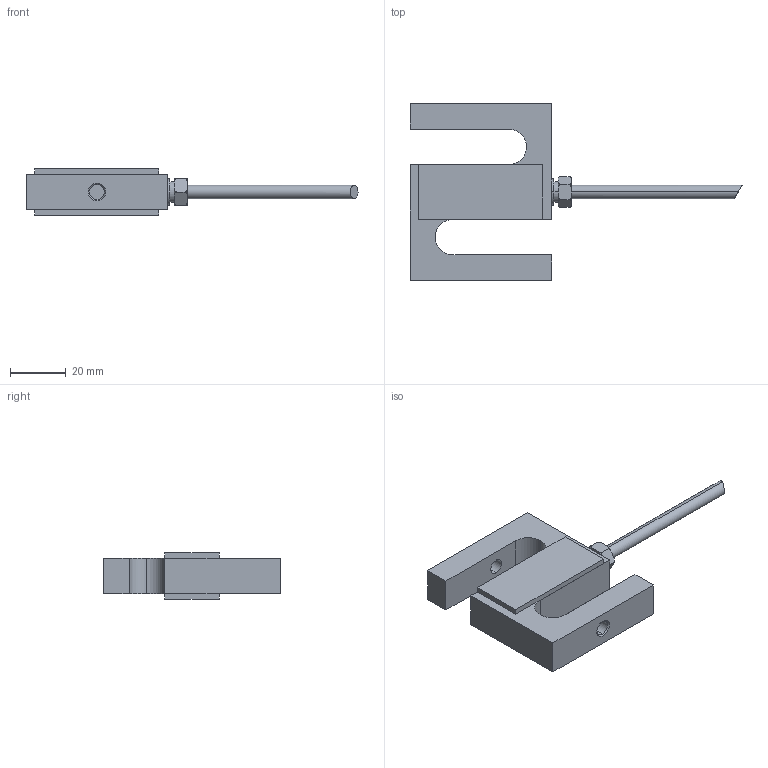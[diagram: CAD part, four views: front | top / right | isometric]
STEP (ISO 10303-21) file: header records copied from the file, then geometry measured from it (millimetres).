
FILE_DESCRIPTION (( 'STEP AP203' ), '1' );
FILE_NAME ('Load_Cell_HISTS.STEP', '2014-10-08T00:18:28', ( '' ), ( '' ), 'SwSTEP 2.0', 'SolidWorks 2013', '' );
FILE_SCHEMA (( 'CONFIG_CONTROL_DESIGN' ));
Length unit declared in the file: millimetre
Products named in the file (1): Load_Cell_HISTS
Bounding box: 118.94 x 63.5 x 16.6 mm (x, y, z)
Volume: 32346.1 mm3; surface area: 11978.5 mm2
Topology: 1 solids, 2 shells, 82 faces, 189 edges, 120 vertices
Faces by surface type: plane 37, cylinder 27, cone 12, bspline 6
Entity records: 2846 total; most frequent: CARTESIAN_POINT 914, DIRECTION 385, ORIENTED_EDGE 378, EDGE_CURVE 189, AXIS2_PLACEMENT_3D 143, VERTEX_POINT 120, VECTOR 99, LINE 99
